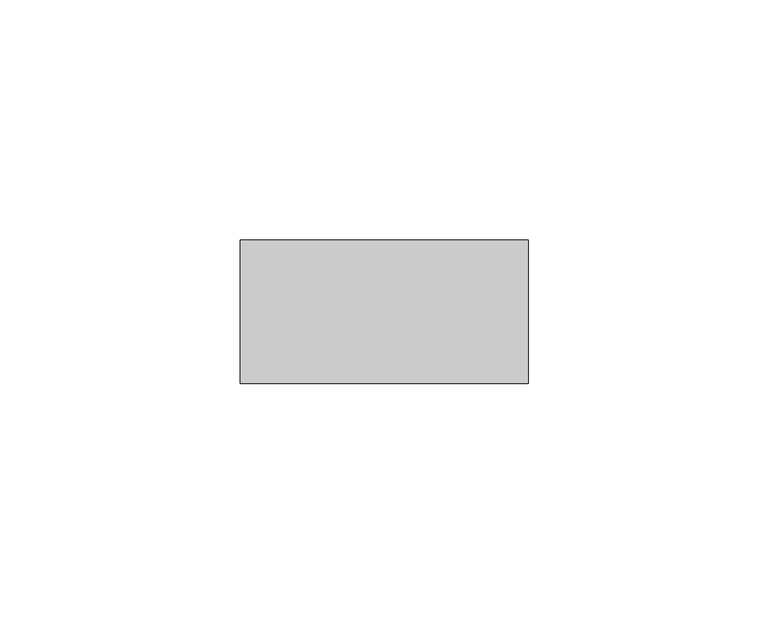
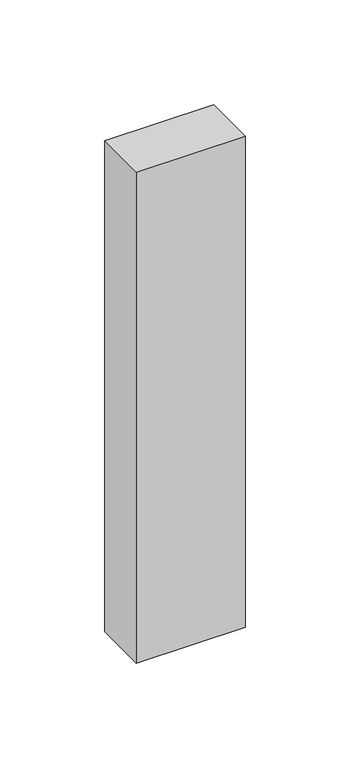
"""IFC4 building model written with IfcOpenShell, lengths in millimetres: member geometry, Прямоугольный импост : Квадрат 30 мм."""

from ifc_helpers import new_model, si_unit, frame, origin, place, context, project, spatial, polyline, outline, extrude, source, transform, mapped, element, save


def member_141d451e(model_context):
    return source(origin(), model_context, "Body", "SweptSolid", [
        extrude(outline(polyline([(0.0, 15.0), (0.0, -15.0), (-60.0, -15.0), (-60.0, 15.0), (0.0, 15.0)])), frame((0.0, 0.0, -286.0), z_axis=(0.0, 0.0, 1.0), x_axis=(1.0, 0.0, 0.0)), (0.0, 0.0, 1.0), 286.0),
    ])


if __name__ == "__main__":
    model = new_model("IFC4")
    model_context = context("Model", 3, world=origin())
    ifc_project = project(units=[si_unit("LENGTHUNIT", "METRE", prefix="MILLI")], contexts=[model_context])
    site = spatial("IfcSite", under=ifc_project)
    building = spatial("IfcBuilding", under=site)
    placement = place(None, origin())
    member_shape = member_141d451e(model_context)
    element("IfcMember", 1, ObjectType="Прямоугольный импост : Квадрат 30 мм", at=placement, inside=building, context=model_context, shape_type="MappedRepresentation", body=[
        mapped(member_shape, transform((0.0, 0.0, 0.0), x_axis=(1.0, 0.0, 0.0), y_axis=(0.0, 1.0, 0.0), z_axis=(0.0, 0.0, 1.0))),
    ])
    save(model, "model.ifc")
